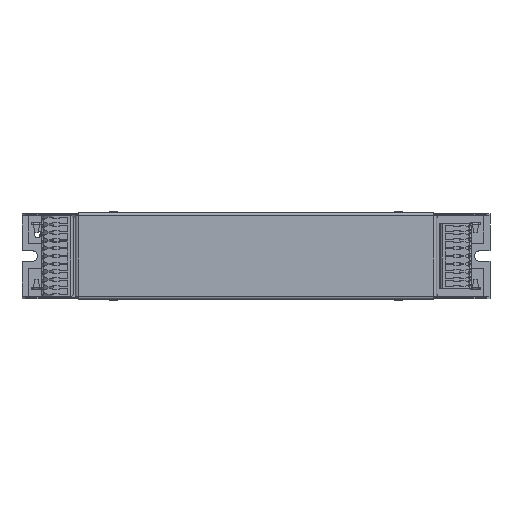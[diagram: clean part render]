
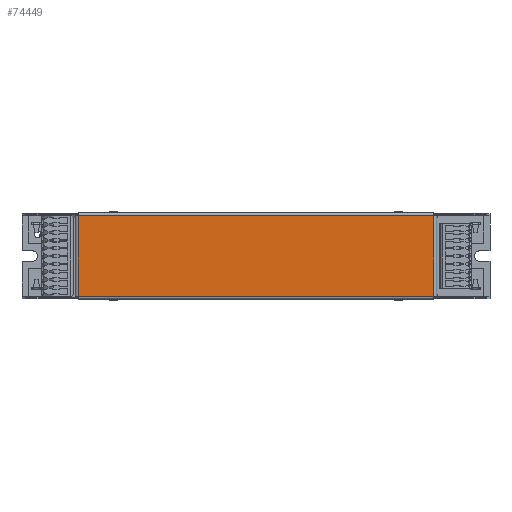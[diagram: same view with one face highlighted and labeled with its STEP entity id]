
A CAD part, top view. The second image highlights one B-rep face of the part: STEP entity #74449.
In plain terms, the highlighted free-form (B-spline) face has degree [3, 3] with [4, 4] control points.
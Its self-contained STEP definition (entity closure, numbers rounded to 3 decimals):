
#70874=DIRECTION('',(0.,-1.,0.));
#70875=VECTOR('',#70874,36.1);
#70876=CARTESIAN_POINT('',(20.55,18.05,28.));
#70877=LINE('',#70876,#70875);
#71048=DIRECTION('',(0.,1.,0.));
#71049=VECTOR('',#71048,0.15);
#71050=CARTESIAN_POINT('',(20.55,-18.2,28.));
#71051=LINE('',#71050,#71049);
#71204=DIRECTION('',(1.,0.,0.));
#71205=VECTOR('',#71204,158.9);
#71206=CARTESIAN_POINT('',(20.55,-18.2,28.));
#71207=LINE('',#71206,#71205);
#71234=DIRECTION('',(0.,1.,0.));
#71235=VECTOR('',#71234,0.15);
#71236=CARTESIAN_POINT('',(179.45,-18.2,28.));
#71237=LINE('',#71236,#71235);
#71604=DIRECTION('',(0.,1.,0.));
#71605=VECTOR('',#71604,36.1);
#71606=CARTESIAN_POINT('',(179.45,-18.05,28.));
#71607=LINE('',#71606,#71605);
#71634=DIRECTION('',(0.,-1.,0.));
#71635=VECTOR('',#71634,0.15);
#71636=CARTESIAN_POINT('',(179.45,18.2,28.));
#71637=LINE('',#71636,#71635);
#71734=DIRECTION('',(-1.,0.,0.));
#71735=VECTOR('',#71734,158.9);
#71736=CARTESIAN_POINT('',(179.45,18.2,28.));
#71737=LINE('',#71736,#71735);
#71820=DIRECTION('',(0.,-1.,0.));
#71821=VECTOR('',#71820,0.15);
#71822=CARTESIAN_POINT('',(20.55,18.2,28.));
#71823=LINE('',#71822,#71821);
#73974=CARTESIAN_POINT('',(20.55,18.05,28.));
#73975=CARTESIAN_POINT('',(20.55,-18.05,28.));
#73976=VERTEX_POINT('',#73974);
#73977=VERTEX_POINT('',#73975);
#73978=CARTESIAN_POINT('',(20.55,18.2,28.));
#73979=VERTEX_POINT('',#73978);
#73980=CARTESIAN_POINT('',(179.45,18.2,28.));
#73981=VERTEX_POINT('',#73980);
#73982=CARTESIAN_POINT('',(179.45,18.05,28.));
#73983=VERTEX_POINT('',#73982);
#73984=CARTESIAN_POINT('',(179.45,-18.05,28.));
#73985=VERTEX_POINT('',#73984);
#73986=CARTESIAN_POINT('',(179.45,-18.2,28.));
#73987=VERTEX_POINT('',#73986);
#73988=CARTESIAN_POINT('',(20.55,-18.2,28.));
#73989=VERTEX_POINT('',#73988);
#74414=CARTESIAN_POINT('',(17.372,-18.928,28.));
#74415=CARTESIAN_POINT('',(17.372,-6.309,28.));
#74416=CARTESIAN_POINT('',(17.372,6.309,28.));
#74417=CARTESIAN_POINT('',(17.372,18.928,28.));
#74418=CARTESIAN_POINT('',(72.457,-18.928,28.));
#74419=CARTESIAN_POINT('',(72.457,-6.309,28.));
#74420=CARTESIAN_POINT('',(72.457,6.309,28.));
#74421=CARTESIAN_POINT('',(72.457,18.928,28.));
#74422=CARTESIAN_POINT('',(127.543,-18.928,28.));
#74423=CARTESIAN_POINT('',(127.543,-6.309,28.));
#74424=CARTESIAN_POINT('',(127.543,6.309,28.));
#74425=CARTESIAN_POINT('',(127.543,18.928,28.));
#74426=CARTESIAN_POINT('',(182.628,-18.928,28.));
#74427=CARTESIAN_POINT('',(182.628,-6.309,28.));
#74428=CARTESIAN_POINT('',(182.628,6.309,28.));
#74429=CARTESIAN_POINT('',(182.628,18.928,28.));
#74430=B_SPLINE_SURFACE_WITH_KNOTS('',3,3,((#74414,#74415,#74416,#74417),
(#74418,#74419,#74420,#74421),(#74422,#74423,#74424,#74425),(#74426,#74427,
#74428,#74429)),.UNSPECIFIED.,.F.,.F.,.F.,(4,4),(4,4),(-82.628,82.628),(
-18.928,18.928),.UNSPECIFIED.);
#74432=ORIENTED_EDGE('',*,*,#74431,.F.);
#74434=ORIENTED_EDGE('',*,*,#74433,.F.);
#74436=ORIENTED_EDGE('',*,*,#74435,.F.);
#74438=ORIENTED_EDGE('',*,*,#74437,.T.);
#74440=ORIENTED_EDGE('',*,*,#74439,.F.);
#74442=ORIENTED_EDGE('',*,*,#74441,.F.);
#74444=ORIENTED_EDGE('',*,*,#74443,.F.);
#74446=ORIENTED_EDGE('',*,*,#74445,.T.);
#74447=EDGE_LOOP('',(#74432,#74434,#74436,#74438,#74440,#74442,#74444,#74446));
#74448=FACE_OUTER_BOUND('',#74447,.F.);
#74431=EDGE_CURVE('',#73976,#73977,#70877,.T.);
#74433=EDGE_CURVE('',#73979,#73976,#71823,.T.);
#74435=EDGE_CURVE('',#73981,#73979,#71737,.T.);
#74437=EDGE_CURVE('',#73981,#73983,#71637,.T.);
#74439=EDGE_CURVE('',#73985,#73983,#71607,.T.);
#74441=EDGE_CURVE('',#73987,#73985,#71237,.T.);
#74443=EDGE_CURVE('',#73989,#73987,#71207,.T.);
#74445=EDGE_CURVE('',#73989,#73977,#71051,.T.);
#74449=ADVANCED_FACE('',(#74448),#74430,.T.);
